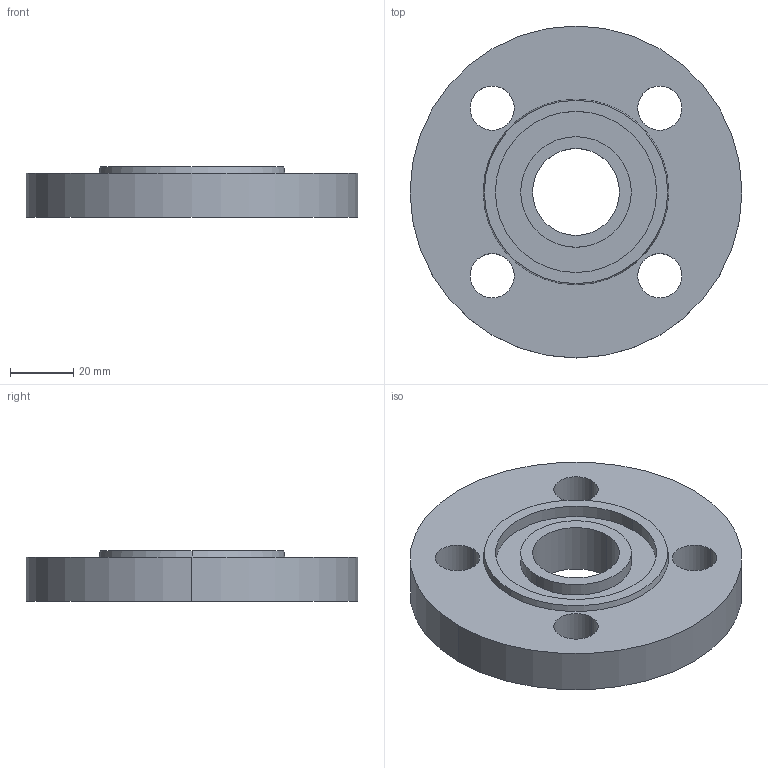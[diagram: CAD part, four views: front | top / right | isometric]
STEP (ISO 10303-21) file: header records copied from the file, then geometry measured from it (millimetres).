
FILE_DESCRIPTION (( 'STEP AP214' ), '1' );
FILE_NAME ('PN40 DN20 Type 01 - Type D Face.STEP', '2018-12-29T18:33:31', ( '' ), ( '' ), 'SwSTEP 2.0', 'SolidWorks 2019', '' );
FILE_SCHEMA (( 'AUTOMOTIVE_DESIGN' ));
Length unit declared in the file: millimetre
Products named in the file (1): PN40 DN20 Type 01 - Type D Face
Bounding box: 105 x 105 x 16 mm (x, y, z)
Volume: 104128.2 mm3; surface area: 24750.4 mm2
Topology: 1 solids, 1 shells, 23 faces, 54 edges, 36 vertices
Faces by surface type: cylinder 16, plane 5, cone 2
Entity records: 738 total; most frequent: DIRECTION 138, CARTESIAN_POINT 114, ORIENTED_EDGE 108, AXIS2_PLACEMENT_3D 60, EDGE_CURVE 54, CIRCLE 36, EDGE_LOOP 36, VERTEX_POINT 36
